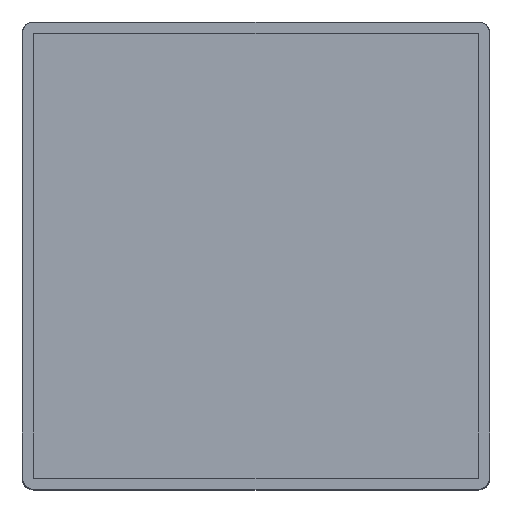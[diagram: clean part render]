
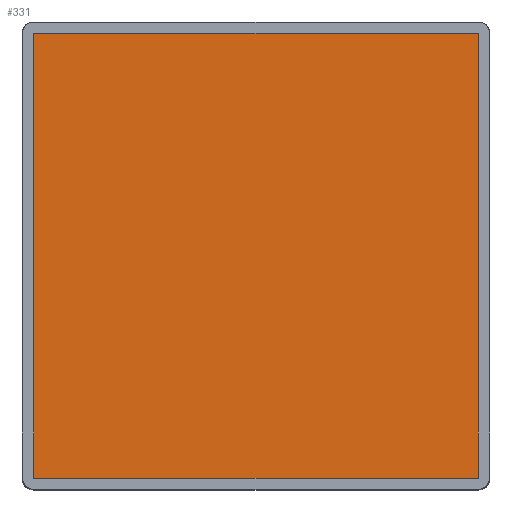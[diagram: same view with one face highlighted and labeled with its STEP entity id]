
A CAD part, top view. The second image highlights one B-rep face of the part: STEP entity #331.
In plain terms, the highlighted planar face has unit normal (0, 0, 1).
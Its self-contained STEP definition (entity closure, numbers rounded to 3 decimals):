
#22 = VERTEX_POINT('',#23);
#23 = CARTESIAN_POINT('',(19.048,19.048,
    -18.571));
#32 = PLANE('',#33);
#33 = AXIS2_PLACEMENT_3D('',#34,#35,#36);
#34 = CARTESIAN_POINT('',(19.048,19.048,
    19.524));
#35 = DIRECTION('',(-1.,0.,-0.));
#36 = DIRECTION('',(0.,0.,-1.));
#44 = PLANE('',#45);
#45 = AXIS2_PLACEMENT_3D('',#46,#47,#48);
#46 = CARTESIAN_POINT('',(19.048,19.048,
    19.524));
#47 = DIRECTION('',(0.,-1.,-0.));
#48 = DIRECTION('',(0.,0.,-1.));
#56 = EDGE_CURVE('',#57,#22,#59,.T.);
#57 = VERTEX_POINT('',#58);
#58 = CARTESIAN_POINT('',(19.048,-19.048,
    -18.571));
#59 = SURFACE_CURVE('',#60,(#64,#71),.PCURVE_S1.);
#60 = LINE('',#61,#62);
#61 = CARTESIAN_POINT('',(19.048,-19.048,
    -18.571));
#62 = VECTOR('',#63,1.);
#63 = DIRECTION('',(0.,1.,0.));
#64 = PCURVE('',#32,#65);
#65 = DEFINITIONAL_REPRESENTATION('',(#66),#70);
#66 = LINE('',#67,#68);
#67 = CARTESIAN_POINT('',(38.095,38.095));
#68 = VECTOR('',#69,1.);
#69 = DIRECTION('',(0.,-1.));
#70 = ( GEOMETRIC_REPRESENTATION_CONTEXT(2) 
PARAMETRIC_REPRESENTATION_CONTEXT() REPRESENTATION_CONTEXT('2D SPACE',''
  ) );
#71 = PCURVE('',#72,#77);
#72 = PLANE('',#73);
#73 = AXIS2_PLACEMENT_3D('',#74,#75,#76);
#74 = CARTESIAN_POINT('',(19.048,-19.048,
    -18.571));
#75 = DIRECTION('',(0.,0.,1.));
#76 = DIRECTION('',(1.,0.,-0.));
#77 = DEFINITIONAL_REPRESENTATION('',(#78),#82);
#78 = LINE('',#79,#80);
#79 = CARTESIAN_POINT('',(0.,0.));
#80 = VECTOR('',#81,1.);
#81 = DIRECTION('',(0.,1.));
#82 = ( GEOMETRIC_REPRESENTATION_CONTEXT(2) 
PARAMETRIC_REPRESENTATION_CONTEXT() REPRESENTATION_CONTEXT('2D SPACE',''
  ) );
#100 = PLANE('',#101);
#101 = AXIS2_PLACEMENT_3D('',#102,#103,#104);
#102 = CARTESIAN_POINT('',(19.048,-19.048,
    19.524));
#103 = DIRECTION('',(0.,1.,0.));
#104 = DIRECTION('',(0.,-0.,1.));
#142 = EDGE_CURVE('',#143,#57,#145,.T.);
#143 = VERTEX_POINT('',#144);
#144 = CARTESIAN_POINT('',(-19.048,-19.048,
    -18.571));
#145 = SURFACE_CURVE('',#146,(#150,#157),.PCURVE_S1.);
#146 = LINE('',#147,#148);
#147 = CARTESIAN_POINT('',(-19.048,-19.048,
    -18.571));
#148 = VECTOR('',#149,1.);
#149 = DIRECTION('',(1.,0.,0.));
#150 = PCURVE('',#100,#151);
#151 = DEFINITIONAL_REPRESENTATION('',(#152),#156);
#152 = LINE('',#153,#154);
#153 = CARTESIAN_POINT('',(-38.095,-38.095));
#154 = VECTOR('',#155,1.);
#155 = DIRECTION('',(0.,1.));
#156 = ( GEOMETRIC_REPRESENTATION_CONTEXT(2) 
PARAMETRIC_REPRESENTATION_CONTEXT() REPRESENTATION_CONTEXT('2D SPACE',''
  ) );
#157 = PCURVE('',#72,#158);
#158 = DEFINITIONAL_REPRESENTATION('',(#159),#163);
#159 = LINE('',#160,#161);
#160 = CARTESIAN_POINT('',(-38.095,0.));
#161 = VECTOR('',#162,1.);
#162 = DIRECTION('',(1.,0.));
#163 = ( GEOMETRIC_REPRESENTATION_CONTEXT(2) 
PARAMETRIC_REPRESENTATION_CONTEXT() REPRESENTATION_CONTEXT('2D SPACE',''
  ) );
#181 = PLANE('',#182);
#182 = AXIS2_PLACEMENT_3D('',#183,#184,#185);
#183 = CARTESIAN_POINT('',(-19.048,19.048,
    19.524));
#184 = DIRECTION('',(1.,0.,0.));
#185 = DIRECTION('',(-0.,0.,1.));
#217 = EDGE_CURVE('',#143,#218,#220,.T.);
#218 = VERTEX_POINT('',#219);
#219 = CARTESIAN_POINT('',(-19.048,19.048,
    -18.571));
#220 = SURFACE_CURVE('',#221,(#225,#232),.PCURVE_S1.);
#221 = LINE('',#222,#223);
#222 = CARTESIAN_POINT('',(-19.048,-19.048,
    -18.571));
#223 = VECTOR('',#224,1.);
#224 = DIRECTION('',(0.,1.,0.));
#225 = PCURVE('',#181,#226);
#226 = DEFINITIONAL_REPRESENTATION('',(#227),#231);
#227 = LINE('',#228,#229);
#228 = CARTESIAN_POINT('',(-38.095,38.095));
#229 = VECTOR('',#230,1.);
#230 = DIRECTION('',(0.,-1.));
#231 = ( GEOMETRIC_REPRESENTATION_CONTEXT(2) 
PARAMETRIC_REPRESENTATION_CONTEXT() REPRESENTATION_CONTEXT('2D SPACE',''
  ) );
#232 = PCURVE('',#72,#233);
#233 = DEFINITIONAL_REPRESENTATION('',(#234),#238);
#234 = LINE('',#235,#236);
#235 = CARTESIAN_POINT('',(-38.095,0.));
#236 = VECTOR('',#237,1.);
#237 = DIRECTION('',(0.,1.));
#238 = ( GEOMETRIC_REPRESENTATION_CONTEXT(2) 
PARAMETRIC_REPRESENTATION_CONTEXT() REPRESENTATION_CONTEXT('2D SPACE',''
  ) );
#288 = EDGE_CURVE('',#218,#22,#289,.T.);
#289 = SURFACE_CURVE('',#290,(#294,#301),.PCURVE_S1.);
#290 = LINE('',#291,#292);
#291 = CARTESIAN_POINT('',(-19.048,19.048,
    -18.571));
#292 = VECTOR('',#293,1.);
#293 = DIRECTION('',(1.,0.,0.));
#294 = PCURVE('',#44,#295);
#295 = DEFINITIONAL_REPRESENTATION('',(#296),#300);
#296 = LINE('',#297,#298);
#297 = CARTESIAN_POINT('',(38.095,-38.095));
#298 = VECTOR('',#299,1.);
#299 = DIRECTION('',(0.,1.));
#300 = ( GEOMETRIC_REPRESENTATION_CONTEXT(2) 
PARAMETRIC_REPRESENTATION_CONTEXT() REPRESENTATION_CONTEXT('2D SPACE',''
  ) );
#301 = PCURVE('',#72,#302);
#302 = DEFINITIONAL_REPRESENTATION('',(#303),#307);
#303 = LINE('',#304,#305);
#304 = CARTESIAN_POINT('',(-38.095,38.095));
#305 = VECTOR('',#306,1.);
#306 = DIRECTION('',(1.,0.));
#307 = ( GEOMETRIC_REPRESENTATION_CONTEXT(2) 
PARAMETRIC_REPRESENTATION_CONTEXT() REPRESENTATION_CONTEXT('2D SPACE',''
  ) );
#331 = ADVANCED_FACE('',(#332),#72,.T.);
#332 = FACE_BOUND('',#333,.T.);
#333 = EDGE_LOOP('',(#334,#335,#336,#337));
#334 = ORIENTED_EDGE('',*,*,#217,.F.);
#335 = ORIENTED_EDGE('',*,*,#142,.T.);
#336 = ORIENTED_EDGE('',*,*,#56,.T.);
#337 = ORIENTED_EDGE('',*,*,#288,.F.);
